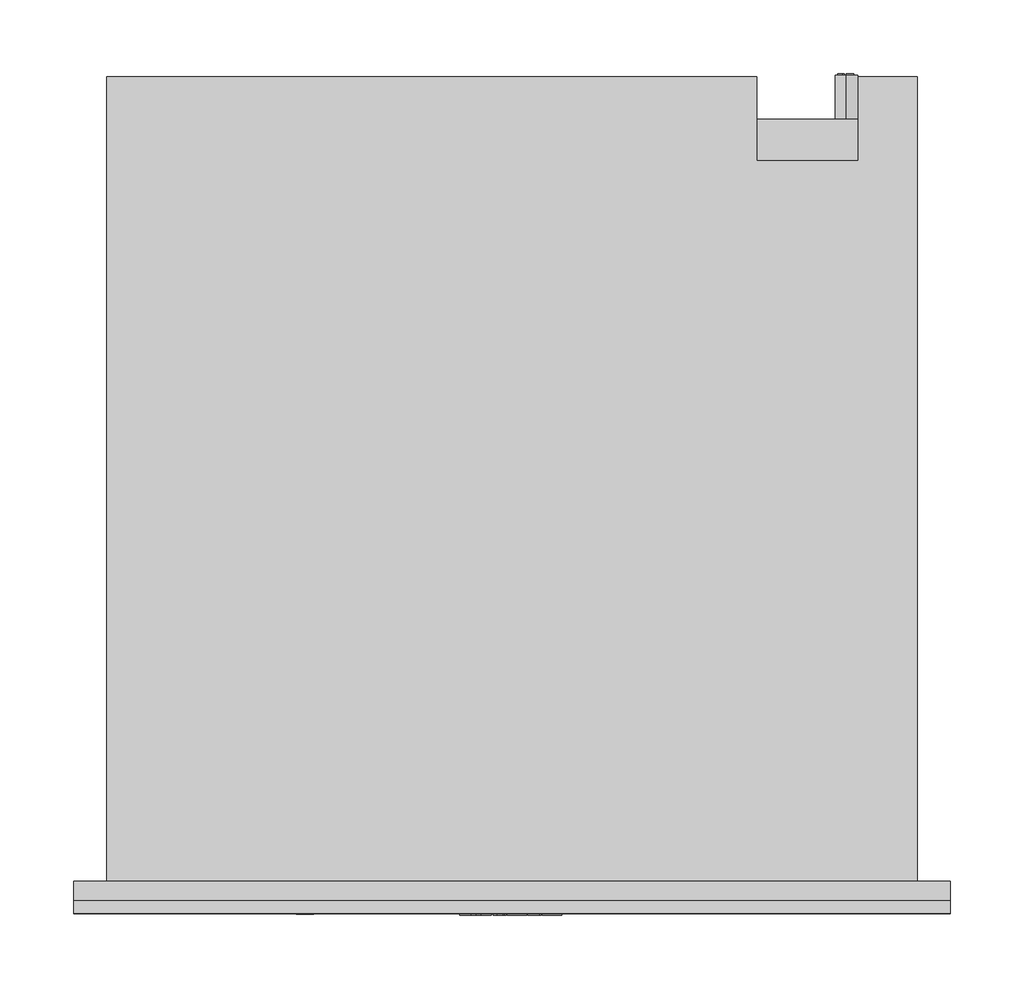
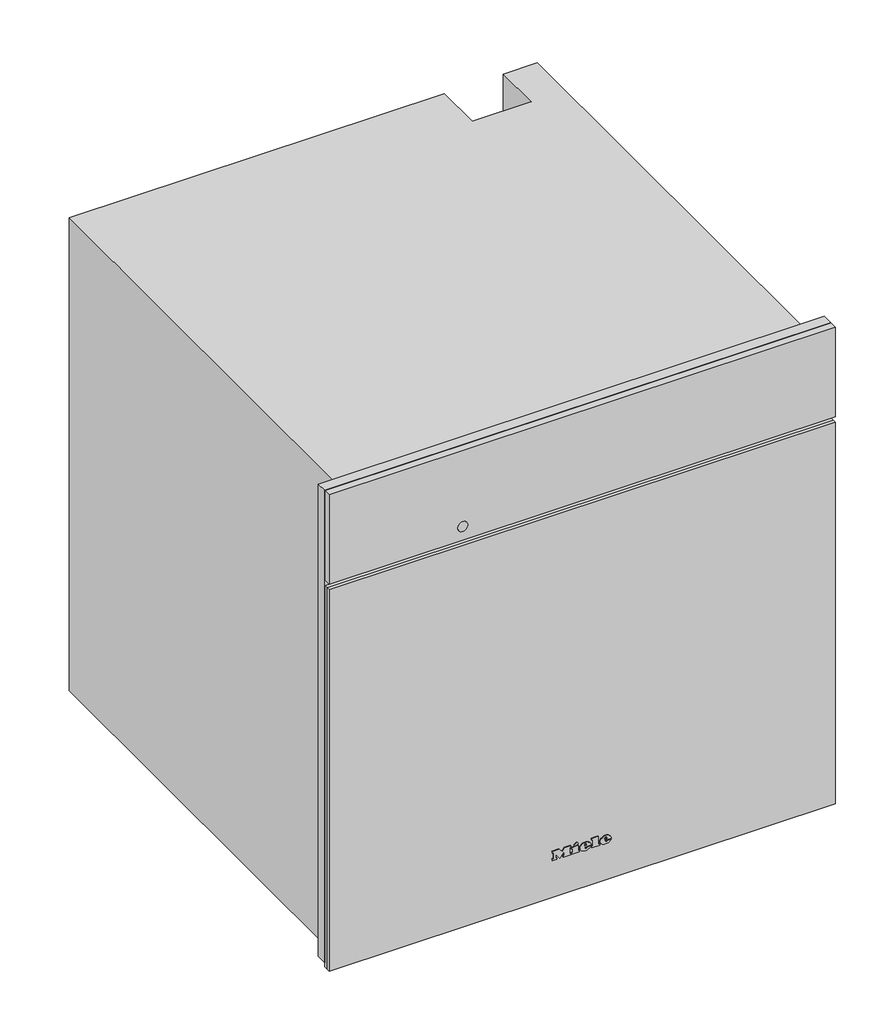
# Not in any storey: 1 proxy.
"""IFC4 building model written with IfcOpenShell, lengths in millimetres."""

import ifcopenshell
import ifcopenshell.guid

model = None  # the IFC model being written
_history = None  # IfcOwnerHistory: only IFC2X3 demands one
_inside = {}  # id of a spatial element -> (the spatial element, [elements in it])
_under = {}  # id of a project, library or spatial element -> (it, [spatial elements below it])
_declared = {}  # id of a project -> (the project, [libraries it declares])
_typed = {}  # id of a type object -> (the type object, [elements of that type])
_made_of = {}  # id of a material, layer set ... -> (it, [elements and type objects made of it])


def new_model(schema):
    """Start an empty IFC model of exactly this schema.

    Asked for "IFC4X3", IfcOpenShell would pick the latest addendum, in which some entities
    have other attributes; the version numbers below select the first issue.
    IFC2X3 requires an IfcOwnerHistory on every rooted entity: one is made here for all.
    """
    global model, _history
    if schema == "IFC4X3":
        model = ifcopenshell.file(schema_version=(4, 3, 0, 0))
    else:
        model = ifcopenshell.file(schema=schema)
    _inside.clear()
    _under.clear()
    _declared.clear()
    _typed.clear()
    _made_of.clear()
    _history = None
    if model.schema == "IFC2X3":
        org = make("IfcOrganization", Name="unknown")
        user = make(
            "IfcPersonAndOrganization",
            ThePerson=make("IfcPerson", FamilyName="unknown"),
            TheOrganization=org,
        )
        app = make(
            "IfcApplication",
            ApplicationDeveloper=org,
            Version="unknown",
            ApplicationFullName="unknown",
            ApplicationIdentifier="unknown",
        )
        _history = make(
            "IfcOwnerHistory",
            OwningUser=user,
            OwningApplication=app,
            ChangeAction="ADDED",
            CreationDate=0,
        )
    return model


def make(cls, **values):
    """One entity of the class cls with the attributes given. An attribute that is None is left unset."""
    return model.create_entity(
        cls, **{name: value for name, value in values.items() if value is not None}
    )


def rooted(cls, **values):
    """An entity with a GlobalId (a new one), such as an element, a storey or a relation."""
    return make(cls, GlobalId=ifcopenshell.guid.new(), OwnerHistory=_history, **values)


def si_unit(unit_type, name, prefix=None):
    """IfcSIUnit, for example si_unit("LENGTHUNIT", "METRE", prefix="MILLI")."""
    return make("IfcSIUnit", UnitType=unit_type, Prefix=prefix, Name=name)


def assignment(units):
    """IfcUnitAssignment: the units of a project."""
    return None if units is None else make("IfcUnitAssignment", Units=units)


def point(xyz):
    """IfcCartesianPoint."""
    return None if xyz is None else make("IfcCartesianPoint", Coordinates=xyz)


def direction(xyz):
    """IfcDirection."""
    return None if xyz is None else make("IfcDirection", DirectionRatios=xyz)


def frame(location, z_axis=None, x_axis=None):
    """IfcAxis2Placement3D, a coordinate frame: its origin and axes. An axis left out is left unset."""
    return make(
        "IfcAxis2Placement3D",
        Location=point(location),
        Axis=direction(z_axis),
        RefDirection=direction(x_axis),
    )


def frame_2d(location, x_axis=None):
    """IfcAxis2Placement2D, a coordinate frame in the plane: its origin and x axis."""
    return make(
        "IfcAxis2Placement2D", Location=point(location), RefDirection=direction(x_axis)
    )


def origin():
    """The frame at (0, 0, 0) with its axes left unset."""
    return frame((0.0, 0.0, 0.0))


def place(relative_to, where):
    """IfcLocalPlacement: puts the frame where relative to a parent placement (None: the world)."""
    return make(
        "IfcLocalPlacement", PlacementRelTo=relative_to, RelativePlacement=where
    )


def context(
    kind, dimensions, precision=None, world=None, true_north=None, identifier=None
):
    """IfcGeometricRepresentationContext, for example the 3D "Model" context."""
    return make(
        "IfcGeometricRepresentationContext",
        ContextIdentifier=identifier,
        ContextType=kind,
        CoordinateSpaceDimension=dimensions,
        Precision=precision,
        WorldCoordinateSystem=world,
        TrueNorth=true_north,
    )


def project(units=None, contexts=None):
    """IfcProject with its units and contexts."""
    return rooted(
        "IfcProject",
        Name="project",
        RepresentationContexts=contexts,
        UnitsInContext=assignment(units),
    )


def spatial(cls, under=None, at=None, **own):
    """A site, building, storey or space (cls), placed at a placement, below another one or the project."""
    s = rooted(cls, ObjectPlacement=at, **own)
    if under is not None:
        _under.setdefault(under.id(), (under, []))[1].append(s)
    return s


def polyline(points):
    """IfcPolyline through the points."""
    return make("IfcPolyline", Points=[point(p) for p in points])


def circle_curve(where, radius):
    """IfcCircle in the frame where."""
    return make("IfcCircle", Position=where, Radius=radius)


def ellipse_curve(where, semi_axis1, semi_axis2):
    """IfcEllipse in the frame where."""
    return make(
        "IfcEllipse", Position=where, SemiAxis1=semi_axis1, SemiAxis2=semi_axis2
    )


def trimmed(basis, trim1, trim2, sense, master):
    """IfcTrimmedCurve: the piece of a basis curve between two trims."""
    return make(
        "IfcTrimmedCurve",
        BasisCurve=basis,
        Trim1=trim1,
        Trim2=trim2,
        SenseAgreement=sense,
        MasterRepresentation=master,
    )


def segment(curve, same_sense, transition):
    """IfcCompositeCurveSegment."""
    return make(
        "IfcCompositeCurveSegment",
        Transition=transition,
        SameSense=same_sense,
        ParentCurve=curve,
    )


def composite_curve(segments, self_intersect=None):
    """IfcCompositeCurve: segments joined end to end."""
    return make("IfcCompositeCurve", Segments=segments, SelfIntersect=self_intersect)


def outline(outer, holes=None, kind="AREA"):
    """IfcArbitraryClosedProfileDef: a profile drawn as a closed curve; with holes, ...WithVoids."""
    if holes is None:
        return make("IfcArbitraryClosedProfileDef", ProfileType=kind, OuterCurve=outer)
    return make(
        "IfcArbitraryProfileDefWithVoids",
        ProfileType=kind,
        OuterCurve=outer,
        InnerCurves=holes,
    )


def extrude(swept, where, along, depth):
    """IfcExtrudedAreaSolid: the profile swept, set in the frame where, extruded along a direction by depth."""
    return make(
        "IfcExtrudedAreaSolid",
        SweptArea=swept,
        Position=where,
        ExtrudedDirection=direction(along),
        Depth=depth,
    )


def faces_of(points, faces, orient=None, outer=None):
    """IfcFace entities. A face is a list of loops; a loop is a list of indices into points, from 0.

    orient and outer hold one flag for each loop. By default every Orientation is true, the
    first loop of a face is its IfcFaceOuterBound and the others are IfcFaceBound.
    """
    made = []
    for i, loops in enumerate(faces):
        bounds = []
        for j, loop in enumerate(loops):
            is_outer = j == 0 if outer is None else outer[i][j]
            bounds.append(
                make(
                    "IfcFaceOuterBound" if is_outer else "IfcFaceBound",
                    Bound=make("IfcPolyLoop", Polygon=[points[k] for k in loop]),
                    Orientation=True if orient is None else orient[i][j],
                )
            )
        made.append(make("IfcFace", Bounds=bounds))
    return made


def faceted_brep(points, faces, orient=None, outer=None, voids=None):
    """IfcFacetedBrep: a solid bounded by flat faces; with voids (closed shells), ...WithVoids."""
    shared = [point(p) for p in points]
    hull = make("IfcClosedShell", CfsFaces=faces_of(shared, faces, orient, outer))
    if voids is None:
        return make("IfcFacetedBrep", Outer=hull)
    return make(
        "IfcFacetedBrepWithVoids",
        Outer=hull,
        Voids=[
            make(cls, CfsFaces=faces_of(shared, fs, o, b)) for cls, fs, o, b in voids
        ],
    )


def shape(context_of_items, identifier, shape_type, items):
    """IfcShapeRepresentation: the items that make up one representation, for example the "Body"."""
    return make(
        "IfcShapeRepresentation",
        ContextOfItems=context_of_items,
        RepresentationIdentifier=identifier,
        RepresentationType=shape_type,
        Items=items,
    )


def source(mapping_origin, context_of_items, identifier, shape_type, items):
    """IfcRepresentationMap: a shape defined once, which mapped items show again and again."""
    return make(
        "IfcRepresentationMap",
        MappingOrigin=mapping_origin,
        MappedRepresentation=shape(context_of_items, identifier, shape_type, items),
    )


def transform(
    local_origin,
    x_axis=None,
    y_axis=None,
    z_axis=None,
    scale=None,
    scale2=None,
    scale3=None,
    uniform=True,
):
    """IfcCartesianTransformationOperator3D, or its non-uniform kind. x_axis, y_axis, z_axis: its Axis1, 2, 3."""
    if uniform:
        return make(
            "IfcCartesianTransformationOperator3D",
            Axis1=direction(x_axis),
            Axis2=direction(y_axis),
            LocalOrigin=point(local_origin),
            Scale=scale,
            Axis3=direction(z_axis),
        )
    return make(
        "IfcCartesianTransformationOperator3DnonUniform",
        Axis1=direction(x_axis),
        Axis2=direction(y_axis),
        LocalOrigin=point(local_origin),
        Scale=scale,
        Axis3=direction(z_axis),
        Scale2=scale2,
        Scale3=scale3,
    )


def mapped(mapping_source, mapping_target):
    """IfcMappedItem: shows the shape of a source again, moved by a transform."""
    return make(
        "IfcMappedItem", MappingSource=mapping_source, MappingTarget=mapping_target
    )


def made_of(thing, what):
    """Note that an element or type object is made of a material, layer set ...; save() writes the relation."""
    if what is not None:
        _made_of.setdefault(what.id(), (what, []))[1].append(thing)
    return thing


def element(
    cls,
    number,
    at=None,
    inside=None,
    cuts=None,
    type_object=None,
    material=None,
    context=None,
    identifier="Body",
    shape_type=None,
    held_by="IfcProductDefinitionShape",
    body=None,
    shapes=None,
    **own,
):
    """One element of the class cls, such as IfcWall. Its Tag is "e" and its number.

    at: its placement. inside: the storey or other place that contains it. cuts: it is an
    opening in that element (IfcRelVoidsElement). A single representation is given by context,
    identifier, shape_type and body (its items); several are given by shapes. held_by: the class
    of the entity that holds the representations. save() writes the other relations.
    """
    e = rooted(cls, Tag="e%d" % number, ObjectPlacement=at, **own)
    if body is not None:
        shapes = [shape(context, identifier, shape_type, body)]
    if shapes is not None:
        e.Representation = make(held_by, Representations=shapes)
    if inside is not None:
        _inside.setdefault(inside.id(), (inside, []))[1].append(e)
    if cuts is not None:
        rooted(
            "IfcRelVoidsElement", RelatingBuildingElement=cuts, RelatedOpeningElement=e
        )
    if type_object is not None:
        _typed.setdefault(type_object.id(), (type_object, []))[1].append(e)
    return made_of(e, material)


def aggregate(whole, parts):
    """IfcRelAggregates: a whole, such as a stair, and the parts it consists of."""
    return rooted("IfcRelAggregates", RelatingObject=whole, RelatedObjects=parts)


def save(model, path):
    """Write the relations noted so far, then the file.

    IfcRelAggregates (storeys below a building ...), IfcRelContainedInSpatialStructure (elements
    in a storey), IfcRelDefinesByType, IfcRelAssociatesMaterial and IfcRelDeclares: one each for
    every whole, place, type object, material and project.
    """
    for whole, parts in _under.values():
        aggregate(whole, parts)
    for where, things in _inside.values():
        rooted(
            "IfcRelContainedInSpatialStructure",
            RelatedElements=things,
            RelatingStructure=where,
        )
    for kind, things in _typed.values():
        rooted("IfcRelDefinesByType", RelatedObjects=things, RelatingType=kind)
    for what, things in _made_of.values():
        rooted("IfcRelAssociatesMaterial", RelatedObjects=things, RelatingMaterial=what)
    for by, libraries in _declared.values():
        rooted("IfcRelDeclares", RelatingContext=by, RelatedDefinitions=libraries)
    model.write(path)


def plane_surface(at):
    """IfcPlane: the flat surface through the origin of the frame at, square to its z axis."""
    return make("IfcPlane", Position=at)


def cylinder_surface(at, radius):
    """IfcCylindricalSurface: all points at the distance radius from the z axis of the frame at."""
    return make("IfcCylindricalSurface", Position=at, Radius=radius)


def revolved_surface(curve, axis_point, axis_direction):
    """IfcSurfaceOfRevolution: the curve turned about the line through axis_point along axis_direction."""
    return make(
        "IfcSurfaceOfRevolution",
        SweptCurve=make("IfcArbitraryOpenProfileDef", ProfileType="CURVE", Curve=curve),
        AxisPosition=make("IfcAxis1Placement", Location=point(axis_point), Axis=direction(axis_direction)),
    )


def extruded_surface(curve, direction_of_extrusion, depth):
    """IfcSurfaceOfLinearExtrusion: the curve pushed along a direction by depth."""
    return make(
        "IfcSurfaceOfLinearExtrusion",
        SweptCurve=make("IfcArbitraryOpenProfileDef", ProfileType="CURVE", Curve=curve),
        ExtrudedDirection=direction(direction_of_extrusion),
        Depth=depth,
    )


def advanced_brep(points, edges, surfaces, faces):
    """IfcAdvancedBrep: a solid bounded by faces that lie on surfaces and meet in shared edges.

    An edge is (start, end): straight between two places in points (the first is 0);
    or (start, end, curve); or (start, end, curve, False) where it runs against its curve.
    A face is (place in surfaces, loops), or (place, loops, False) where it looks against
    its surface's normal. A loop lists edges by number (the first is 1), with a minus sign
    where the edge is run from its end to its start. The first loop is the outer one.
    """
    corners = [point(p) for p in points]
    vertices = [make("IfcVertexPoint", VertexGeometry=c) for c in corners]
    made = []
    for start, end, *more in edges:
        made.append(
            make(
                "IfcEdgeCurve",
                EdgeStart=vertices[start],
                EdgeEnd=vertices[end],
                EdgeGeometry=more[0] if more else make("IfcPolyline", Points=[corners[start], corners[end]]),
                SameSense=more[1] if len(more) > 1 else True,
            )
        )
    hull = []
    for where, loops, *sense in faces:
        bounds = []
        for j, loop in enumerate(loops):
            ring = [make("IfcOrientedEdge", EdgeElement=made[abs(k) - 1], Orientation=k > 0) for k in loop]
            bounds.append(
                make(
                    "IfcFaceOuterBound" if j == 0 else "IfcFaceBound",
                    Bound=make("IfcEdgeLoop", EdgeList=ring),
                    Orientation=True,
                )
            )
        hull.append(make("IfcAdvancedFace", Bounds=bounds, FaceSurface=surfaces[where], SameSense=sense[0] if sense else True))
    return make("IfcAdvancedBrep", Outer=make("IfcClosedShell", CfsFaces=hull))


def specialty_equipment_33fbdf8a(model_context):
    return source(origin(), model_context, "Body", "SolidModel", [
        extrude(outline(polyline([(596.0, 297.5), (596.0, -297.5), (9.0, -297.5), (9.0, 297.5), (596.0, 297.5)]), holes=[polyline([(485.0, -272.5), (485.0, 272.5), (27.0, 272.5), (27.0, -272.5), (485.0, -272.5)])]), frame((0.0, -13.0, 0.0), z_axis=(0.0, 1.0, 0.0), x_axis=(0.0, 0.0, 1.0)), (0.0, 0.0, 1.0), 13.0),
        advanced_brep(
        [(227.0, 547.0, 396.5), (227.0, 547.0, 381.5), (221.4098301, 547.0, 384.0), (225.5, 547.0, 384.0), (225.5, 547.0, 394.0), (224.4955303, 547.0, 394.0), (224.4955303, 547.0, 385.0), (221.0315043, 547.0, 385.0), (221.0315043, 547.0, 384.4582978), (232.0, 547.0, 384.0), (232.0, 547.0, 394.0), (227.0, 547.0, 394.0), (227.0, 547.0, 393.0), (231.0, 547.0, 393.0), (231.0, 547.0, 389.5), (228.0, 547.0, 389.5), (228.0, 547.0, 388.5), (231.0, 547.0, 388.5), (231.0, 547.0, 385.0), (227.0, 547.0, 385.0), (227.0, 547.0, 384.0), (227.0, 517.0, 381.5), (227.0, 517.0, 396.5), (232.0, 548.0, 394.0), (232.0, 548.0, 384.0), (227.0, 548.0, 384.0), (227.0, 548.0, 385.0), (231.0, 548.0, 385.0), (231.0, 548.0, 388.5), (228.0, 548.0, 388.5), (228.0, 548.0, 389.5), (231.0, 548.0, 389.5), (231.0, 548.0, 393.0), (227.0, 548.0, 393.0), (227.0, 548.0, 394.0), (225.5, 548.0, 384.0), (221.0315043, 548.0, 384.0), (221.0315043, 548.0, 385.0), (224.4955303, 548.0, 385.0), (224.4955303, 548.0, 394.0), (225.5, 548.0, 394.0), (221.0315043, 547.0, 384.0)],
        [
            (0, 1, circle_curve(frame((227.0, 547.0, 389.0), z_axis=(0.0, 1.0, 0.0), x_axis=(0.0, 0.0, 1.0)), 7.5)),
            (1, 2, circle_curve(frame((227.0, 547.0, 389.0), z_axis=(0.0, 1.0, 0.0), x_axis=(0.0, 0.0, 1.0)), 7.5)),
            (2, 3),
            (3, 4),
            (4, 5),
            (5, 6),
            (6, 7),
            (7, 8),
            (8, 0, circle_curve(frame((227.0, 547.0, 389.0), z_axis=(0.0, 1.0, 0.0), x_axis=(0.0, 0.0, 1.0)), 7.5)),
            (9, 10),
            (10, 11),
            (11, 12),
            (12, 13),
            (13, 14),
            (14, 15),
            (15, 16),
            (16, 17),
            (17, 18),
            (18, 19),
            (19, 20),
            (20, 9),
            (21, 22, circle_curve(frame((227.0, 517.0, 389.0), z_axis=(0.0, -1.0, 0.0), x_axis=(0.0, 0.0, 1.0)), 7.5)),
            (22, 21, circle_curve(frame((227.0, 517.0, 389.0), z_axis=(0.0, -1.0, 0.0), x_axis=(0.0, 0.0, 1.0)), 7.5)),
            (0, 22),
            (21, 1),
            (8, 2, circle_curve(frame((227.0, 547.0, 389.0), z_axis=(0.0, -1.0, 0.0), x_axis=(0.0, 0.0, 1.0)), 7.5)),
            (23, 24),
            (24, 25),
            (25, 26),
            (26, 27),
            (27, 28),
            (28, 29),
            (29, 30),
            (30, 31),
            (31, 32),
            (32, 33),
            (33, 34),
            (34, 23),
            (35, 36),
            (36, 37),
            (37, 38),
            (38, 39),
            (39, 40),
            (40, 35),
            (8, 41),
            (41, 2),
            (23, 10),
            (9, 24),
            (20, 25),
            (19, 26),
            (18, 27),
            (17, 28),
            (16, 29),
            (15, 30),
            (14, 31),
            (13, 32),
            (12, 33),
            (11, 34),
            (35, 3),
            (41, 36),
            (7, 37),
            (6, 38),
            (5, 39),
            (4, 40),
        ],
        [
            plane_surface(frame((227.0, 547.0, 396.5), z_axis=(0.0, 1.0, 0.0), x_axis=(1.0, 0.0, 0.0))),
            plane_surface(frame((227.0, 517.0, 396.5), z_axis=(0.0, -1.0, 0.0), x_axis=(-1.0, 0.0, 0.0))),
            cylinder_surface(frame((227.0, 547.0, 389.0), z_axis=(0.0, -1.0, 0.0), x_axis=(0.0, 0.0, 1.0)), 7.5),
            plane_surface(frame((232.0, 548.0, 394.0), z_axis=(0.0, 1.0, 0.0), x_axis=(0.0, 0.0, -1.0))),
            plane_surface(frame((232.0, 547.0, 394.0), z_axis=(0.0, -1.0, 0.0), x_axis=(0.0, 0.0, 1.0))),
            plane_surface(frame((232.0, 548.0, 394.0), z_axis=(1.0, 0.0, 0.0), x_axis=(0.0, -1.0, 0.0))),
            plane_surface(frame((232.0, 548.0, 384.0), z_axis=(0.0, 0.0, -1.0), x_axis=(0.0, -1.0, 0.0))),
            plane_surface(frame((227.0, 548.0, 384.0), z_axis=(-1.0, 0.0, 0.0), x_axis=(0.0, -1.0, 0.0))),
            plane_surface(frame((227.0, 548.0, 385.0), z_axis=(0.0, 0.0, 1.0), x_axis=(0.0, -1.0, 0.0))),
            plane_surface(frame((231.0, 548.0, 385.0), z_axis=(-1.0, 0.0, 0.0), x_axis=(0.0, -1.0, 0.0))),
            plane_surface(frame((231.0, 548.0, 388.5), z_axis=(0.0, 0.0, -1.0), x_axis=(0.0, -1.0, 0.0))),
            plane_surface(frame((228.0, 548.0, 388.5), z_axis=(-1.0, 0.0, 0.0), x_axis=(0.0, -1.0, 0.0))),
            plane_surface(frame((228.0, 548.0, 389.5), z_axis=(0.0, 0.0, 1.0), x_axis=(0.0, -1.0, 0.0))),
            plane_surface(frame((231.0, 548.0, 389.5), z_axis=(-1.0, 0.0, 0.0), x_axis=(0.0, -1.0, 0.0))),
            plane_surface(frame((231.0, 548.0, 393.0), z_axis=(0.0, 0.0, -1.0), x_axis=(0.0, -1.0, 0.0))),
            plane_surface(frame((227.0, 548.0, 393.0), z_axis=(-1.0, 0.0, 0.0), x_axis=(0.0, -1.0, 0.0))),
            plane_surface(frame((227.0, 548.0, 394.0), z_axis=(0.0, 0.0, 1.0), x_axis=(0.0, -1.0, 0.0))),
            plane_surface(frame((225.5, 548.0, 384.0), z_axis=(0.0, 0.0, -1.0), x_axis=(0.0, -1.0, 0.0))),
            plane_surface(frame((221.0315043, 548.0, 384.0), z_axis=(-1.0, 0.0, 0.0), x_axis=(0.0, -1.0, 0.0))),
            plane_surface(frame((221.0315043, 548.0, 385.0), z_axis=(0.0, 0.0, 1.0), x_axis=(0.0, -1.0, 0.0))),
            plane_surface(frame((224.4955303, 548.0, 385.0), z_axis=(-1.0, 0.0, 0.0), x_axis=(0.0, -1.0, 0.0))),
            plane_surface(frame((224.4955303, 548.0, 394.0), z_axis=(0.0, 0.0, 1.0), x_axis=(0.0, -1.0, 0.0))),
            plane_surface(frame((225.5, 548.0, 394.0), z_axis=(1.0, 0.0, 0.0), x_axis=(0.0, -1.0, 0.0))),
        ],
        [
            (0, [[1, 2, 3, 4, 5, 6, 7, 8, 9], [10, 11, 12, 13, 14, 15, 16, 17, 18, 19, 20, 21]]),
            (1, [[22, 23]]),
            (2, [[-1, 24, -22, 25]]),
            (2, [[-23, -24, -9, 26, -2, -25]]),
            (3, [[27, 28, 29, 30, 31, 32, 33, 34, 35, 36, 37, 38]]),
            (3, [[39, 40, 41, 42, 43, 44]]),
            (4, [[45, 46, -26]]),
            (5, [[-27, 47, -10, 48]]),
            (6, [[-28, -48, -21, 49]]),
            (7, [[-29, -49, -20, 50]]),
            (8, [[-30, -50, -19, 51]]),
            (9, [[-31, -51, -18, 52]]),
            (10, [[-32, -52, -17, 53]]),
            (11, [[-33, -53, -16, 54]]),
            (12, [[-34, -54, -15, 55]]),
            (13, [[-35, -55, -14, 56]]),
            (14, [[-36, -56, -13, 57]]),
            (15, [[-37, -57, -12, 58]]),
            (16, [[-38, -58, -11, -47]]),
            (17, [[-39, 59, -3, -46, 60]]),
            (18, [[-40, -60, -45, -8, 61]]),
            (19, [[-41, -61, -7, 62]]),
            (20, [[-42, -62, -6, 63]]),
            (21, [[-43, -63, -5, 64]]),
            (22, [[-44, -64, -4, -59]]),
        ],
    ),
        faceted_brep([(-275.0, 546.0, 0.0), (-275.0, 546.0, 588.0), (166.0, 546.0, 588.0), (166.0, 546.0, 0.0), (235.0, 546.0, 588.0), (275.0, 546.0, 588.0), (275.0, 546.0, 478.0), (235.0, 546.0, 478.0), (275.0, 0.0, 588.0), (-275.0, 0.0, 588.0), (-275.0, 0.0, 0.0), (275.0, 0.0, 0.0), (-272.5, 0.0, 485.0), (272.5, 0.0, 485.0), (272.5, 0.0, 27.0), (-272.5, 0.0, 27.0), (235.0, 489.0, 588.0), (166.0, 489.0, 588.0), (166.0, 517.0, 0.0), (275.0, 517.0, 0.0), (275.0, 517.0, 478.0), (272.5, 17.0, 485.0), (-272.5, 17.0, 485.0), (-272.5, 17.0, 27.0), (272.5, 17.0, 27.0), (231.0, 17.0, 409.0), (231.0, 17.0, 61.0), (-231.0, 17.0, 61.0), (-231.0, 17.0, 409.0), (231.0, 411.0, 409.0), (-231.0, 411.0, 409.0), (-231.0, 411.0, 61.0), (231.0, 411.0, 61.0), (235.0, 489.0, 477.0), (166.0, 489.0, 477.0), (166.0, 517.0, 477.0), (235.0, 517.0, 477.0), (235.0, 517.0, 478.0)], [[[0, 1, 2, 3]], [[4, 5, 6, 7]], [[8, 9, 10, 11], [12, 13, 14, 15]], [[9, 8, 5, 4, 16, 17, 2, 1]], [[1, 0, 10, 9]], [[11, 10, 0, 3, 18, 19]], [[8, 11, 19, 20, 6, 5]], [[21, 22, 23, 24], [25, 26, 27, 28]], [[22, 21, 13, 12]], [[23, 22, 12, 15]], [[24, 23, 15, 14]], [[21, 24, 14, 13]], [[29, 30, 31, 32]], [[29, 32, 26, 25]], [[32, 31, 27, 26]], [[31, 30, 28, 27]], [[30, 29, 25, 28]], [[16, 33, 34, 17]], [[17, 34, 35, 18, 3, 2]], [[34, 33, 36, 35]], [[33, 16, 4, 7, 37, 36]], [[37, 20, 19, 18, 35, 36]], [[20, 37, 7, 6]]]),
        advanced_brep(
        [(26.2998, -23.0, 52.7018), (26.2998, -23.0, 53.8532), (33.9264, -23.0, 53.8532), (20.6568, -23.0, 53.8532), (23.7918, -23.0, 50.0), (33.7326, -23.0, 52.7018), (30.2898, -23.0, 52.7018), (27.5766, -23.0, 51.425), (26.2998, -23.0, 55.3124), (26.2998, -23.0, 56.555), (28.2492, -23.0, 56.555), (28.2492, -23.0, 55.3124), (26.2998, -22.0, 52.7018), (27.5766, -22.0, 51.425), (30.2898, -22.0, 52.7018), (33.7326, -22.0, 52.7018), (23.7918, -22.0, 50.0), (20.6568, -22.0, 53.8532), (33.9264, -22.0, 53.8532), (26.2998, -22.0, 53.8532), (26.2998, -22.0, 55.3124), (28.2492, -22.0, 55.3124), (28.2492, -22.0, 56.555), (26.2998, -22.0, 56.555)],
        [
            (0, 1),
            (1, 2),
            (2, 3, ellipse_curve(frame((27.2916, -23.0, 53.8532), z_axis=(0.0, -1.0, 0.0), x_axis=(-1.0, 0.0, 0.0)), 6.6348, 5.4834)),
            (3, 4, circle_curve(frame((25.0686622, -23.0, 54.2408), z_axis=(0.0, -1.0, 0.0), x_axis=(0.0, 0.0, -1.0)), 4.4288556)),
            (4, 5, circle_curve(frame((27.1587808, -23.0, 57.2504), z_axis=(0.0, -1.0, 0.0), x_axis=(0.0, 0.0, -1.0)), 7.9940516)),
            (5, 6),
            (6, 7, circle_curve(frame((28.1338588, -23.0, 53.762), z_axis=(0.0, 1.0, 0.0), x_axis=(0.0, 0.0, -1.0)), 2.4025208)),
            (7, 0, circle_curve(frame((27.5766, -23.0, 52.7018), z_axis=(0.0, 1.0, 0.0), x_axis=(0.0, 0.0, -1.0)), 1.2768)),
            (8, 9),
            (9, 10, circle_curve(frame((27.2745, -23.0, 56.555), z_axis=(0.0, 1.0, 0.0), x_axis=(0.0, 0.0, -1.0)), 0.9747)),
            (10, 11),
            (11, 8),
            (12, 13, circle_curve(frame((27.5766, -22.0, 52.7018), z_axis=(0.0, -1.0, 0.0), x_axis=(0.0, 0.0, -1.0)), 1.2768)),
            (13, 14, circle_curve(frame((28.1338588, -22.0, 53.762), z_axis=(0.0, -1.0, 0.0), x_axis=(0.0, 0.0, -1.0)), 2.4025208)),
            (14, 15),
            (15, 16, circle_curve(frame((27.1587808, -22.0, 57.2504), z_axis=(0.0, 1.0, 0.0), x_axis=(0.0, 0.0, -1.0)), 7.9940516)),
            (16, 17, circle_curve(frame((25.0686622, -22.0, 54.2408), z_axis=(0.0, 1.0, 0.0), x_axis=(0.0, 0.0, -1.0)), 4.4288556)),
            (17, 18, ellipse_curve(frame((27.2916, -22.0, 53.8532), z_axis=(0.0, 1.0, 0.0), x_axis=(-1.0, 0.0, 0.0)), 6.6348, 5.4834)),
            (18, 19),
            (19, 12),
            (20, 21),
            (21, 22),
            (22, 23, circle_curve(frame((27.2745, -22.0, 56.555), z_axis=(0.0, -1.0, 0.0), x_axis=(0.0, 0.0, -1.0)), 0.9747)),
            (23, 20),
            (0, 12),
            (19, 1),
            (18, 2),
            (5, 15),
            (14, 6),
            (17, 3),
            (13, 7),
            (16, 4),
            (8, 20),
            (23, 9),
            (22, 10),
            (21, 11),
        ],
        [
            plane_surface(frame((26.2998, -23.0, 53.8532), z_axis=(0.0, -1.0, 0.0), x_axis=(0.0, 0.0, 1.0))),
            plane_surface(frame((26.2998, -22.0, 53.8532), z_axis=(0.0, 1.0, 0.0), x_axis=(0.0, 0.0, -1.0))),
            plane_surface(frame((26.2998, -23.0, 52.7018), z_axis=(1.0, 0.0, 0.0), x_axis=(0.0, 1.0, 0.0))),
            plane_surface(frame((26.2998, -23.0, 53.8532), z_axis=(0.0, 0.0, -1.0), x_axis=(0.0, 1.0, 0.0))),
            plane_surface(frame((33.7326, -23.0, 52.7018), z_axis=(0.0, 0.0, 1.0), x_axis=(0.0, 1.0, 0.0))),
            extruded_surface(trimmed(ellipse_curve(frame((27.2916, -21.0, 53.8532), z_axis=(0.0, -1.0, 0.0), x_axis=(-1.0, 0.0, 0.0)), 6.6348, 5.4834), [point((33.9264, -21.0, 53.8532))], [point((20.6568, -21.0, 53.8532))], True, "CARTESIAN"), (0.0, -1.0, 0.0), 1.0),
            revolved_surface(polyline([(28.1338588, -22.0, 51.3594792), (28.1338588, -23.0, 51.3594792)]), (28.1338588, -22.0, 53.762), (0.0, 1.0, 0.0)),
            revolved_surface(polyline([(27.5766, -22.0, 51.425), (27.5766, -23.0, 51.425)]), (27.5766, -22.0, 52.7018), (0.0, 1.0, 0.0)),
            cylinder_surface(frame((25.0686622, -22.0, 54.2408), z_axis=(0.0, -1.0, 0.0), x_axis=(0.0, 0.0, -1.0)), 4.4288556),
            cylinder_surface(frame((27.1587808, -22.0, 57.2504), z_axis=(0.0, -1.0, 0.0), x_axis=(0.0, 0.0, -1.0)), 7.9940516),
            plane_surface(frame((26.2998, -23.0, 55.3124), z_axis=(1.0, 0.0, 0.0), x_axis=(0.0, 1.0, 0.0))),
            revolved_surface(polyline([(27.2745, -22.0, 55.5803), (27.2745, -23.0, 55.5803)]), (27.2745, -22.0, 56.555), (0.0, 1.0, 0.0)),
            plane_surface(frame((28.2492, -23.0, 56.555), z_axis=(-1.0, 0.0, 0.0), x_axis=(0.0, 1.0, 0.0))),
            plane_surface(frame((28.2492, -23.0, 55.3124), z_axis=(0.0, 0.0, 1.0), x_axis=(0.0, 1.0, 0.0))),
        ],
        [
            (0, [[1, 2, 3, 4, 5, 6, 7, 8], [9, 10, 11, 12]]),
            (1, [[13, 14, 15, 16, 17, 18, 19, 20], [21, 22, 23, 24]]),
            (2, [[-1, 25, -20, 26]]),
            (3, [[-2, -26, -19, 27]]),
            (4, [[-6, 28, -15, 29]]),
            (5, [[-3, -27, -18, 30]]),
            (6, [[-7, -29, -14, 31]]),
            (7, [[-8, -31, -13, -25]]),
            (8, [[-4, -30, -17, 32]]),
            (9, [[-5, -32, -16, -28]]),
            (10, [[-9, 33, -24, 34]]),
            (11, [[-10, -34, -23, 35]]),
            (12, [[-11, -35, -22, 36]]),
            (13, [[-12, -36, -21, -33]]),
        ],
    ),
        advanced_brep(
        [(2.508, -23.0, 52.7018), (2.508, -23.0, 53.8532), (10.1346, -23.0, 53.8532), (-3.135, -23.0, 53.8532), (0.0, -23.0, 50.0), (9.9408, -23.0, 52.7018), (6.498, -23.0, 52.7018), (3.7848, -23.0, 51.425), (2.508, -23.0, 55.3124), (2.508, -23.0, 56.555), (4.4574, -23.0, 56.555), (4.4574, -23.0, 55.3124), (2.508, -22.0, 52.7018), (3.7848, -22.0, 51.425), (6.498, -22.0, 52.7018), (9.9408, -22.0, 52.7018), (0.0, -22.0, 50.0), (-3.135, -22.0, 53.8532), (10.1346, -22.0, 53.8532), (2.508, -22.0, 53.8532), (2.508, -22.0, 55.3124), (4.4574, -22.0, 55.3124), (4.4574, -22.0, 56.555), (2.508, -22.0, 56.555)],
        [
            (0, 1),
            (1, 2),
            (2, 3, ellipse_curve(frame((3.4998, -23.0, 53.8532), z_axis=(0.0, -1.0, 0.0), x_axis=(-1.0, 0.0, 0.0)), 6.6348, 5.4834)),
            (3, 4, circle_curve(frame((1.2768622, -23.0, 54.2408), z_axis=(0.0, -1.0, 0.0), x_axis=(0.0, 0.0, -1.0)), 4.4288556)),
            (4, 5, circle_curve(frame((3.3669808, -23.0, 57.2504), z_axis=(0.0, -1.0, 0.0), x_axis=(0.0, 0.0, -1.0)), 7.9940516)),
            (5, 6),
            (6, 7, circle_curve(frame((4.3420588, -23.0, 53.762), z_axis=(0.0, 1.0, 0.0), x_axis=(0.0, 0.0, -1.0)), 2.4025208)),
            (7, 0, circle_curve(frame((3.7848, -23.0, 52.7018), z_axis=(0.0, 1.0, 0.0), x_axis=(0.0, 0.0, -1.0)), 1.2768)),
            (8, 9),
            (9, 10, circle_curve(frame((3.4827, -23.0, 56.555), z_axis=(0.0, 1.0, 0.0), x_axis=(0.0, 0.0, -1.0)), 0.9747)),
            (10, 11),
            (11, 8),
            (12, 13, circle_curve(frame((3.7848, -22.0, 52.7018), z_axis=(0.0, -1.0, 0.0), x_axis=(0.0, 0.0, -1.0)), 1.2768)),
            (13, 14, circle_curve(frame((4.3420588, -22.0, 53.762), z_axis=(0.0, -1.0, 0.0), x_axis=(0.0, 0.0, -1.0)), 2.4025208)),
            (14, 15),
            (15, 16, circle_curve(frame((3.3669808, -22.0, 57.2504), z_axis=(0.0, 1.0, 0.0), x_axis=(0.0, 0.0, -1.0)), 7.9940516)),
            (16, 17, circle_curve(frame((1.2768622, -22.0, 54.2408), z_axis=(0.0, 1.0, 0.0), x_axis=(0.0, 0.0, -1.0)), 4.4288556)),
            (17, 18, ellipse_curve(frame((3.4998, -22.0, 53.8532), z_axis=(0.0, 1.0, 0.0), x_axis=(-1.0, 0.0, 0.0)), 6.6348, 5.4834)),
            (18, 19),
            (19, 12),
            (20, 21),
            (21, 22),
            (22, 23, circle_curve(frame((3.4827, -22.0, 56.555), z_axis=(0.0, -1.0, 0.0), x_axis=(0.0, 0.0, -1.0)), 0.9747)),
            (23, 20),
            (0, 12),
            (19, 1),
            (18, 2),
            (5, 15),
            (14, 6),
            (17, 3),
            (13, 7),
            (16, 4),
            (8, 20),
            (23, 9),
            (22, 10),
            (21, 11),
        ],
        [
            plane_surface(frame((2.508, -23.0, 53.8532), z_axis=(0.0, -1.0, 0.0), x_axis=(0.0, 0.0, 1.0))),
            plane_surface(frame((2.508, -22.0, 53.8532), z_axis=(0.0, 1.0, 0.0), x_axis=(0.0, 0.0, -1.0))),
            plane_surface(frame((2.508, -23.0, 52.7018), z_axis=(1.0, 0.0, 0.0), x_axis=(0.0, 1.0, 0.0))),
            plane_surface(frame((2.508, -23.0, 53.8532), z_axis=(0.0, 0.0, -1.0), x_axis=(0.0, 1.0, 0.0))),
            plane_surface(frame((9.9408, -23.0, 52.7018), z_axis=(0.0, 0.0, 1.0), x_axis=(0.0, 1.0, 0.0))),
            extruded_surface(trimmed(ellipse_curve(frame((3.4998, -21.0, 53.8532), z_axis=(0.0, -1.0, 0.0), x_axis=(-1.0, 0.0, 0.0)), 6.6348, 5.4834), [point((10.1346, -21.0, 53.8532))], [point((-3.135, -21.0, 53.8532))], True, "CARTESIAN"), (0.0, -1.0, 0.0), 1.0),
            revolved_surface(polyline([(4.3420588, -22.0, 51.3594792), (4.3420588, -23.0, 51.3594792)]), (4.3420588, -22.0, 53.762), (0.0, 1.0, 0.0)),
            revolved_surface(polyline([(3.7848, -22.0, 51.425), (3.7848, -23.0, 51.425)]), (3.7848, -22.0, 52.7018), (0.0, 1.0, 0.0)),
            cylinder_surface(frame((1.2768622, -22.0, 54.2408), z_axis=(0.0, -1.0, 0.0), x_axis=(0.0, 0.0, -1.0)), 4.4288556),
            cylinder_surface(frame((3.3669808, -22.0, 57.2504), z_axis=(0.0, -1.0, 0.0), x_axis=(0.0, 0.0, -1.0)), 7.9940516),
            plane_surface(frame((2.508, -23.0, 55.3124), z_axis=(1.0, 0.0, 0.0), x_axis=(0.0, 1.0, 0.0))),
            revolved_surface(polyline([(3.4827, -22.0, 55.5803), (3.4827, -23.0, 55.5803)]), (3.4827, -22.0, 56.555), (0.0, 1.0, 0.0)),
            plane_surface(frame((4.4574, -23.0, 56.555), z_axis=(-1.0, 0.0, 0.0), x_axis=(0.0, 1.0, 0.0))),
            plane_surface(frame((4.4574, -23.0, 55.3124), z_axis=(0.0, 0.0, 1.0), x_axis=(0.0, 1.0, 0.0))),
        ],
        [
            (0, [[1, 2, 3, 4, 5, 6, 7, 8], [9, 10, 11, 12]]),
            (1, [[13, 14, 15, 16, 17, 18, 19, 20], [21, 22, 23, 24]]),
            (2, [[-1, 25, -20, 26]]),
            (3, [[-2, -26, -19, 27]]),
            (4, [[-6, 28, -15, 29]]),
            (5, [[-3, -27, -18, 30]]),
            (6, [[-7, -29, -14, 31]]),
            (7, [[-8, -31, -13, -25]]),
            (8, [[-4, -30, -17, 32]]),
            (9, [[-5, -32, -16, -28]]),
            (10, [[-9, 33, -24, 34]]),
            (11, [[-10, -34, -23, 35]]),
            (12, [[-11, -35, -22, 36]]),
            (13, [[-12, -36, -21, -33]]),
        ],
    ),
        extrude(outline(polyline([(60.7274, -9.9522), (58.8806, -9.0858), (60.6818, -5.2212), (62.5286, -6.0762), (60.7274, -9.9522)])), frame((0.0, -23.0, 0.0), z_axis=(0.0, 1.0, 0.0), x_axis=(0.0, 0.0, 1.0)), (0.0, 0.0, 1.0), 1.0),
        extrude(outline(polyline([(58.6298, -12.768), (56.5892, -12.768), (56.5892, -11.4114), (51.9152, -11.4114), (51.9152, -12.768), (50.0, -12.768), (50.0, -3.7734), (51.9152, -3.7734), (51.9152, -5.0958), (58.6298, -5.0958), (58.6298, -12.768)])), frame((0.0, -23.0, 0.0), z_axis=(0.0, 1.0, 0.0), x_axis=(0.0, 0.0, 1.0)), (0.0, 0.0, 1.0), 1.0),
        extrude(outline(polyline([(59.5418, 10.773), (59.5418, 12.141), (51.9152, 12.141), (51.9152, 10.773), (50.0, 10.773), (50.0, 20.0184), (51.9152, 20.0184), (51.9152, 18.6162), (61.4, 18.6162), (61.4, 10.773), (59.5418, 10.773)])), frame((0.0, -23.0, 0.0), z_axis=(0.0, 1.0, 0.0), x_axis=(0.0, 0.0, 1.0)), (0.0, 0.0, 1.0), 1.0),
        extrude(outline(polyline([(59.5418, -35.4882), (59.5418, -34.1088), (51.9152, -34.1088), (51.9152, -35.4882), (50.0, -35.4882), (50.0, -30.4722), (51.9152, -30.4722), (51.9152, -31.8402), (56.7429247, -31.8402), (50.0, -26.7444), (56.9402223, -21.6258), (51.9152, -21.6258), (51.9152, -23.028), (50.0, -23.028), (50.0, -13.9308), (51.9152, -13.9308), (51.9152, -15.3786), (59.5418, -15.3786), (59.5418, -13.9308), (61.4, -13.9308), (61.4, -20.8734), (57.125, -24.2022), (61.4, -27.5424), (61.4, -35.4882), (59.5418, -35.4882)])), frame((0.0, -23.0, 0.0), z_axis=(0.0, 1.0, 0.0), x_axis=(0.0, 0.0, 1.0)), (0.0, 0.0, 1.0), 1.0),
        extrude(outline(polyline([(297.5, -22.0), (-297.5, -22.0), (-297.5, -13.0), (297.5, -13.0), (297.5, -22.0)])), frame((0.0, 0.0, 485.0), z_axis=(0.0, 0.0, 1.0), x_axis=(1.0, 0.0, 0.0)), (0.0, 0.0, 1.0), 111.0),
        extrude(outline(composite_curve([segment(trimmed(circle_curve(frame_2d((502.0, -140.5745637)), 6.0), [point((502.0, -146.5745637))], [point((502.0, -134.5745637))], False, "CARTESIAN"), True, "CONTINUOUS"), segment(trimmed(circle_curve(frame_2d((502.0, -140.5745637)), 6.0), [point((502.0, -134.5745637))], [point((502.0, -146.5745637))], False, "CARTESIAN"), True, "CONTINUOUS")], self_intersect=False)), frame((0.0, -22.5, 0.0), z_axis=(0.0, 1.0, 0.0), x_axis=(0.0, 0.0, 1.0)), (0.0, 0.0, 1.0), 1.0),
        extrude(outline(polyline([(-297.5, -18.0), (297.5, -18.0), (297.5, -22.0), (-297.5, -22.0), (-297.5, -18.0)])), frame((0.0, 0.0, 4.0), z_axis=(0.0, 0.0, 1.0), x_axis=(1.0, 0.0, 0.0)), (0.0, 0.0, 1.0), 474.0),
        extrude(outline(polyline([(297.5, -18.0), (-297.5, -18.0), (-297.5, -13.0), (297.5, -13.0), (297.5, -18.0)])), frame((0.0, 0.0, 4.0), z_axis=(0.0, 0.0, 1.0), x_axis=(1.0, 0.0, 0.0)), (0.0, 0.0, 1.0), 474.0),
    ])


model = new_model("IFC4")

# Units and contexts
model_context = context("Model", 3, world=origin())
ifc_project = project(units=[si_unit("LENGTHUNIT", "METRE", prefix="MILLI")], contexts=[model_context])

# Site, building
site = spatial("IfcSite", under=ifc_project)
building = spatial("IfcBuilding", under=site)

# Proxy
placement = place(None, origin())
specialty_equipment_shape = specialty_equipment_33fbdf8a(model_context)
element("IfcBuildingElementProxy", 1, Name="12109630_CN_DGC7860HCXProC_GRGR : 23786079_CN_12109630_DGC7860HCXProC_GRGR", ObjectType="12109630_CN_DGC7860HCXProC_GRGR : 23786079_CN_12109630_DGC7860HCXProC_GRGR", at=placement, inside=building, context=model_context, shape_type="MappedRepresentation", body=[
    mapped(specialty_equipment_shape, transform((0.0, 0.0, 0.0), x_axis=(1.0, 0.0, 0.0), y_axis=(0.0, 1.0, 0.0), z_axis=(0.0, 0.0, 1.0))),
])

save(model, "model.ifc")
